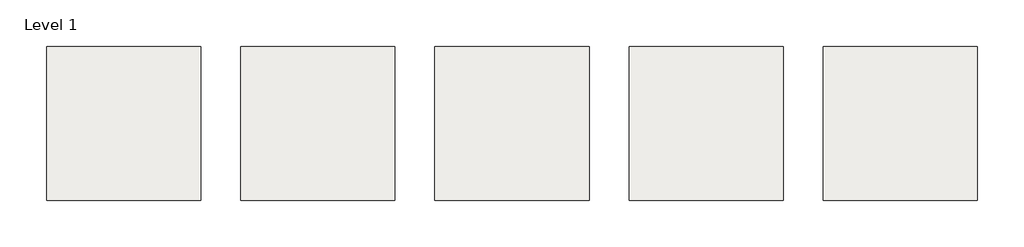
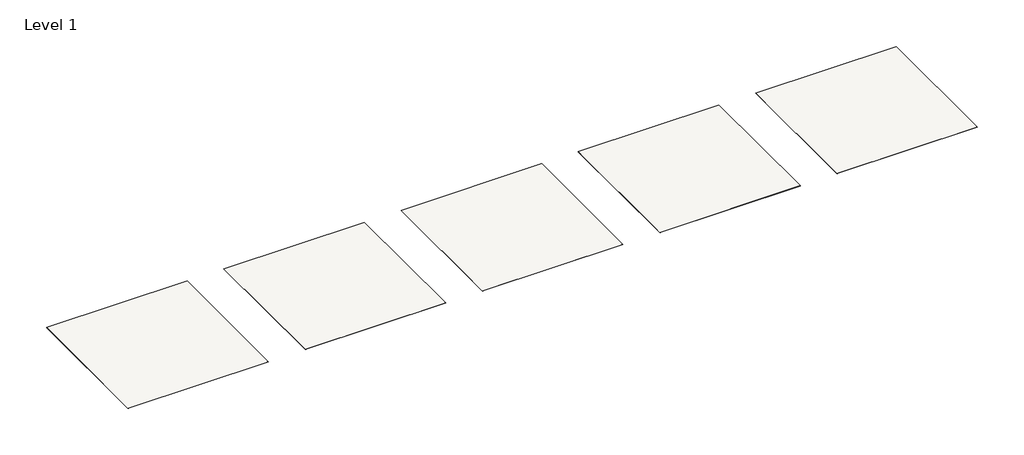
# One storey: 5 slabs.
"""IFC4 building model written with IfcOpenShell, lengths in millimetres."""

from ifc_helpers import new_model, si_unit, frame, origin, place, context, project, spatial, polyline, outline, extrude, element, save

model = new_model("IFC4")

# Units and contexts
model_context = context("Model", 3, world=origin())
ifc_project = project(units=[si_unit("LENGTHUNIT", "METRE", prefix="MILLI")], contexts=[model_context])

# Site, building, storey
site = spatial("IfcSite", under=ifc_project)
building = spatial("IfcBuilding", under=site)
storey = spatial("IfcBuildingStorey", under=building, Name="Level 1", Elevation=0.0)

# Slabs
placement = place(None, origin())
element("IfcSlab", 1, ObjectType="Thesize_Neolith_3mm+-Iron Copper- 3600x1200 mm-Satin", at=placement, inside=storey, context=model_context, shape_type="SweptSolid", body=[
    extrude(outline(polyline([(18632.6076717, -73557.477561), (18632.6076717, -78557.477561), (13632.6076717, -78557.477561), (13632.6076717, -73557.477561), (18632.6076717, -73557.477561)])), frame((0.0, 0.0, -3.0), z_axis=(0.0, 0.0, 1.0), x_axis=(1.0, 0.0, 0.0)), (0.0, 0.0, 1.0), 3.0),
])
element("IfcSlab", 2, ObjectType="Thesize_Neolith_6mm+ - Iron Copper - 3200x1500 mm-Satin", at=placement, inside=storey, context=model_context, shape_type="SweptSolid", body=[
    extrude(outline(polyline([(24932.6076717, -73557.477561), (24932.6076717, -78557.477561), (19932.6076717, -78557.477561), (19932.6076717, -73557.477561), (24932.6076717, -73557.477561)])), frame((0.0, 0.0, -6.0), z_axis=(0.0, 0.0, 1.0), x_axis=(1.0, 0.0, 0.0)), (0.0, 0.0, 1.0), 6.0),
])
element("IfcSlab", 3, ObjectType="Thesize_Neolith_12mm - Iron Copper- 3200x1600 mm-Satin", at=placement, inside=storey, context=model_context, shape_type="SweptSolid", body=[
    extrude(outline(polyline([(31232.6076717, -73557.477561), (31232.6076717, -78557.477561), (26232.6076717, -78557.477561), (26232.6076717, -73557.477561), (31232.6076717, -73557.477561)])), frame((0.0, 0.0, -12.0), z_axis=(0.0, 0.0, 1.0), x_axis=(1.0, 0.0, 0.0)), (0.0, 0.0, 1.0), 12.0),
])
element("IfcSlab", 4, ObjectType="Thesize_Neolith_6mm+-Iron Copper- 3600x1200 mm-Satin", at=placement, inside=storey, context=model_context, shape_type="SweptSolid", body=[
    extrude(outline(polyline([(37532.6076717, -73557.477561), (37532.6076717, -78557.477561), (32532.6076717, -78557.477561), (32532.6076717, -73557.477561), (37532.6076717, -73557.477561)])), frame((0.0, 0.0, -6.0), z_axis=(0.0, 0.0, 1.0), x_axis=(1.0, 0.0, 0.0)), (0.0, 0.0, 1.0), 6.0),
])
element("IfcSlab", 5, ObjectType="Thesize_Neolith_6mm-Iron Copper- 2600x1200 mm-Satin", at=placement, inside=storey, context=model_context, shape_type="SweptSolid", body=[
    extrude(outline(polyline([(12332.6076717, -73557.477561), (12332.6076717, -78557.477561), (7332.6076717, -78557.477561), (7332.6076717, -73557.477561), (12332.6076717, -73557.477561)])), frame((0.0, 0.0, -6.0), z_axis=(0.0, 0.0, 1.0), x_axis=(1.0, 0.0, 0.0)), (0.0, 0.0, 1.0), 6.0),
])

save(model, "model.ifc")
